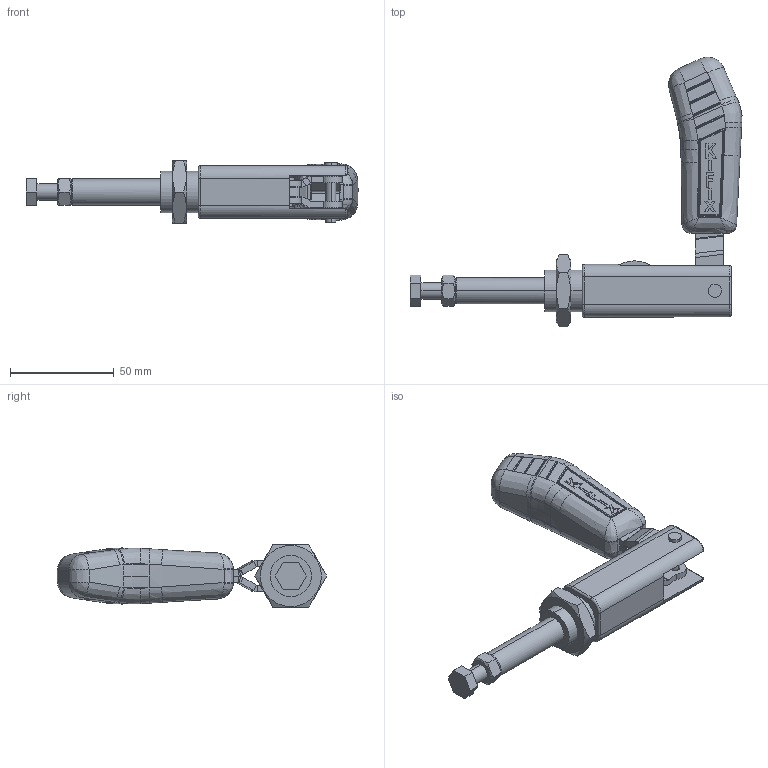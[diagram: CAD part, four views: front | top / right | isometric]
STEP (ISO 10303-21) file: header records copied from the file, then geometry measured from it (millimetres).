
FILE_DESCRIPTION (( 'STEP AP203' ), '1' );
FILE_NAME ('KF-007.STEP', '2014-08-26T17:34:11', ( 'Ricardo' ), ( '' ), 'SwSTEP 2.0', 'SolidWorks 2013', '' );
FILE_SCHEMA (( 'CONFIG_CONTROL_DESIGN' ));
Length unit declared in the file: millimetre
Products named in the file (14): KF-007; 06.50004; 06.50005; 06.50006; 07.60001; 02.30001; 11.20004; 03.20001; 11.50002; 15.10008; 12.50020; 01.10010_Direita; PP-M8; 01.10010_Esquerda
Assembly tree (13 placements, depth 3):
  KF-007
    02.30001
    03.20001
    15.10008
    01.10010_Direita
    01.10010_Esquerda
    06.50004
    06.50005
    06.50006
    07.60001
    11.20004
    PP-M8
      11.50002
      12.50020
Bounding box: 160.09 x 129.92 x 30 mm (x, y, z)
Volume: 97414.1 mm3; surface area: 42085 mm2
Topology: 12 solids, 12 shells, 624 faces, 1587 edges, 995 vertices
Faces by surface type: plane 248, cylinder 184, bspline 142, cone 31, torus 15, sphere 4
Entity records: 24250 total; most frequent: CARTESIAN_POINT 9293, ORIENTED_EDGE 3138, DIRECTION 2309, EDGE_CURVE 1569, VERTEX_POINT 993, AXIS2_PLACEMENT_3D 831, EDGE_LOOP 678, VECTOR 647
